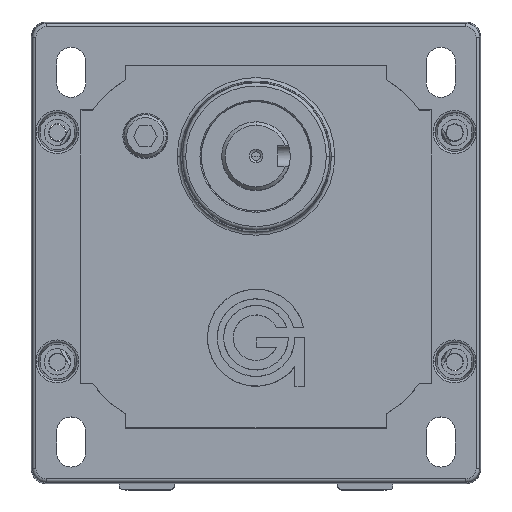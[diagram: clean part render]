
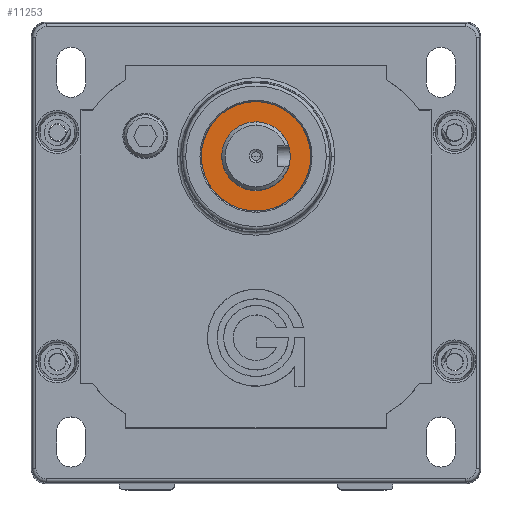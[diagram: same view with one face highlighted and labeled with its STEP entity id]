
A CAD part, top view. The second image highlights one B-rep face of the part: STEP entity #11253.
In plain terms, the highlighted planar face has unit normal (0, 0, 1).
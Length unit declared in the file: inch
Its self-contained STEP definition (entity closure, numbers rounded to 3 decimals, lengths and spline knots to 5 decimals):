
#11156 = EDGE_LOOP ( 'NONE', ( #11254, #11266 ) ) ;
#11168 = VERTEX_POINT ( 'NONE', #14885 ) ;
#11169 = VERTEX_POINT ( 'NONE', #14884 ) ;
#11170 = ORIENTED_EDGE ( 'NONE', *, *, #11171, .T. ) ;
#11171 = EDGE_CURVE ( 'NONE', #11169, #11168, #14883, .T. ) ;
#11253 = ADVANCED_FACE ( 'NONE', ( #15049, #15048 ), #15047, .F. ) ;
#11254 = ORIENTED_EDGE ( 'NONE', *, *, #11255, .F. ) ;
#11255 = EDGE_CURVE ( 'NONE', #11256, #11257, #15041, .T. ) ;
#11256 = VERTEX_POINT ( 'NONE', #15037 ) ;
#11257 = VERTEX_POINT ( 'NONE', #15036 ) ;
#11266 = ORIENTED_EDGE ( 'NONE', *, *, #11363, .F. ) ;
#11363 = EDGE_CURVE ( 'NONE', #11257, #11256, #15293, .T. ) ;
#11364 = EDGE_LOOP ( 'NONE', ( #11365, #11170 ) ) ;
#11365 = ORIENTED_EDGE ( 'NONE', *, *, #11366, .T. ) ;
#11366 = EDGE_CURVE ( 'NONE', #11168, #11169, #15288, .T. ) ;
#14879 = DIRECTION ( 'NONE',  ( -0.999, -0.052, 0. ) ) ;
#14880 = DIRECTION ( 'NONE',  ( 0., 0., 1. ) ) ;
#14881 = CARTESIAN_POINT ( 'NONE',  ( 0., 0.825, 0.4013 ) ) ;
#14882 = AXIS2_PLACEMENT_3D ( 'NONE', #14881, #14880, #14879 ) ;
#14883 = CIRCLE ( 'NONE', #14882, 0.4995 ) ;
#14884 = CARTESIAN_POINT ( 'NONE',  ( 0.49882, 0.85098, 0.4013 ) ) ;
#14885 = CARTESIAN_POINT ( 'NONE',  ( -0.49882, 0.79902, 0.4013 ) ) ;
#15036 = CARTESIAN_POINT ( 'NONE',  ( 0.31208, 0.84126, 0.4013 ) ) ;
#15037 = CARTESIAN_POINT ( 'NONE',  ( -0.31208, 0.80874, 0.4013 ) ) ;
#15038 = DIRECTION ( 'NONE',  ( -0.999, -0.052, 0. ) ) ;
#15039 = DIRECTION ( 'NONE',  ( 0., 0., 1. ) ) ;
#15040 = AXIS2_PLACEMENT_3D ( 'NONE', #15046, #15039, #15038 ) ;
#15041 = CIRCLE ( 'NONE', #15040, 0.3125 ) ;
#15042 = DIRECTION ( 'NONE',  ( 0.999, 0.052, 0. ) ) ;
#15043 = DIRECTION ( 'NONE',  ( 0., 0., -1. ) ) ;
#15044 = CARTESIAN_POINT ( 'NONE',  ( 0.01626, 0.51292, 0.4013 ) ) ;
#15045 = AXIS2_PLACEMENT_3D ( 'NONE', #15044, #15043, #15042 ) ;
#15046 = CARTESIAN_POINT ( 'NONE',  ( 0., 0.825, 0.4013 ) ) ;
#15047 = PLANE ( 'NONE',  #15045 ) ;
#15048 = FACE_OUTER_BOUND ( 'NONE', #11364, .T. ) ;
#15049 = FACE_BOUND ( 'NONE', #11156, .T. ) ;
#15284 = DIRECTION ( 'NONE',  ( -0.999, -0.052, 0. ) ) ;
#15285 = DIRECTION ( 'NONE',  ( 0., 0., 1. ) ) ;
#15286 = CARTESIAN_POINT ( 'NONE',  ( 0., 0.825, 0.4013 ) ) ;
#15287 = AXIS2_PLACEMENT_3D ( 'NONE', #15286, #15285, #15284 ) ;
#15288 = CIRCLE ( 'NONE', #15287, 0.4995 ) ;
#15289 = DIRECTION ( 'NONE',  ( -0.999, -0.052, 0. ) ) ;
#15290 = DIRECTION ( 'NONE',  ( 0., 0., 1. ) ) ;
#15291 = CARTESIAN_POINT ( 'NONE',  ( 0., 0.825, 0.4013 ) ) ;
#15292 = AXIS2_PLACEMENT_3D ( 'NONE', #15291, #15290, #15289 ) ;
#15293 = CIRCLE ( 'NONE', #15292, 0.3125 ) ;
